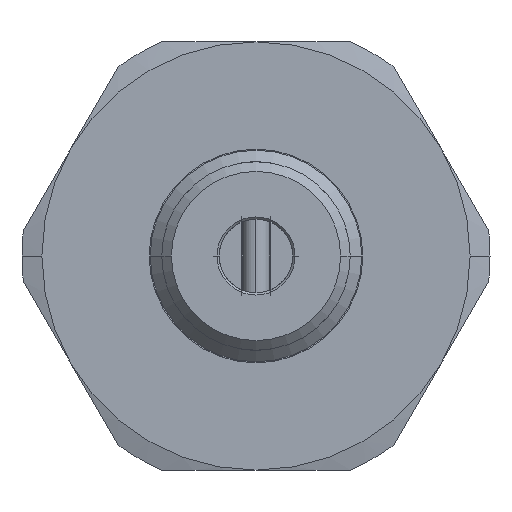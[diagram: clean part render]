
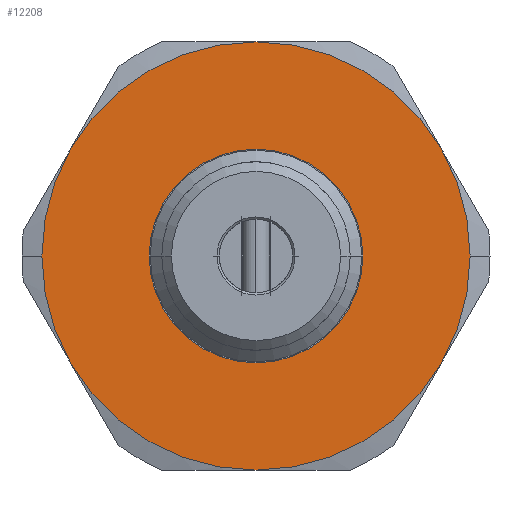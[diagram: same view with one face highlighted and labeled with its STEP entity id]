
A CAD part, left-side view. The second image highlights one B-rep face of the part: STEP entity #12208.
In plain terms, the highlighted planar face has unit normal (-1, 0, 0).
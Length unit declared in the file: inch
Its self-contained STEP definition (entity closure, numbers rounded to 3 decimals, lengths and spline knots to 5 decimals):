
#10758=CARTESIAN_POINT('',(-0.219,0.2495,0.0));
#10759=VERTEX_POINT('',#10758);
#10775=CARTESIAN_POINT('',(-0.219,-0.2495,0.));
#10776=VERTEX_POINT('',#10775);
#10783=CARTESIAN_POINT('',(-0.219,0.0,0.0));
#10784=DIRECTION('',(1.0,0.0,0.0));
#10785=DIRECTION('',(0.0,1.0,0.0));
#10786=AXIS2_PLACEMENT_3D('',#10783,#10784,#10785);
#10787=CIRCLE('',#10786,0.2495);
#10788=EDGE_CURVE('',#10759,#10776,#10787,.T.);
#10882=CARTESIAN_POINT('',(-0.219,0.5,0.));
#10883=VERTEX_POINT('',#10882);
#10890=CARTESIAN_POINT('',(-0.219,0.43301,0.25));
#10891=VERTEX_POINT('',#10890);
#10892=CARTESIAN_POINT('',(-0.219,0.0,0.0));
#10893=DIRECTION('',(1.0,0.0,0.0));
#10894=DIRECTION('',(0.0,1.0,0.0));
#10895=AXIS2_PLACEMENT_3D('',#10892,#10893,#10894);
#10896=CIRCLE('',#10895,0.5);
#10897=EDGE_CURVE('',#10883,#10891,#10896,.T.);
#10915=CARTESIAN_POINT('',(-0.219,-0.5,0.));
#10916=VERTEX_POINT('',#10915);
#10924=CARTESIAN_POINT('',(-0.219,-0.43301,0.25));
#10925=VERTEX_POINT('',#10924);
#10933=CARTESIAN_POINT('',(-0.219,0.0,0.0));
#10934=DIRECTION('',(1.0,0.0,0.0));
#10935=DIRECTION('',(0.0,1.0,0.0));
#10936=AXIS2_PLACEMENT_3D('',#10933,#10934,#10935);
#10937=CIRCLE('',#10936,0.5);
#10938=EDGE_CURVE('',#10925,#10916,#10937,.T.);
#11565=CARTESIAN_POINT('',(-0.219,0.,0.5));
#11566=VERTEX_POINT('',#11565);
#11660=CARTESIAN_POINT('',(-0.219,0.43301,-0.25));
#11661=VERTEX_POINT('',#11660);
#11720=CARTESIAN_POINT('',(-0.219,0.,-0.5));
#11721=VERTEX_POINT('',#11720);
#11780=CARTESIAN_POINT('',(-0.219,-0.43301,-0.25));
#11781=VERTEX_POINT('',#11780);
#11985=CARTESIAN_POINT('',(-0.219,0.0,0.0));
#11986=DIRECTION('',(1.0,0.0,0.0));
#11987=DIRECTION('',(0.0,1.0,0.0));
#11988=AXIS2_PLACEMENT_3D('',#11985,#11986,#11987);
#11989=CIRCLE('',#11988,0.5);
#11990=EDGE_CURVE('',#10916,#11781,#11989,.T.);
#12017=CARTESIAN_POINT('',(-0.219,0.0,0.0));
#12018=DIRECTION('',(1.0,0.0,0.0));
#12019=DIRECTION('',(0.0,1.0,0.0));
#12020=AXIS2_PLACEMENT_3D('',#12017,#12018,#12019);
#12021=CIRCLE('',#12020,0.5);
#12022=EDGE_CURVE('',#11781,#11721,#12021,.T.);
#12041=CARTESIAN_POINT('',(-0.219,0.0,0.0));
#12042=DIRECTION('',(1.0,0.0,0.0));
#12043=DIRECTION('',(0.0,1.0,0.0));
#12044=AXIS2_PLACEMENT_3D('',#12041,#12042,#12043);
#12045=CIRCLE('',#12044,0.5);
#12046=EDGE_CURVE('',#11721,#11661,#12045,.T.);
#12065=CARTESIAN_POINT('',(-0.219,0.0,0.0));
#12066=DIRECTION('',(1.0,0.0,0.0));
#12067=DIRECTION('',(0.0,1.0,0.0));
#12068=AXIS2_PLACEMENT_3D('',#12065,#12066,#12067);
#12069=CIRCLE('',#12068,0.5);
#12070=EDGE_CURVE('',#11661,#10883,#12069,.T.);
#12089=CARTESIAN_POINT('',(-0.219,0.0,0.0));
#12090=DIRECTION('',(1.0,0.0,0.0));
#12091=DIRECTION('',(0.0,1.0,0.0));
#12092=AXIS2_PLACEMENT_3D('',#12089,#12090,#12091);
#12093=CIRCLE('',#12092,0.5);
#12094=EDGE_CURVE('',#10891,#11566,#12093,.T.);
#12165=CARTESIAN_POINT('',(-0.219,0.0,0.0));
#12166=DIRECTION('',(1.0,0.0,0.0));
#12167=DIRECTION('',(0.0,1.0,0.0));
#12168=AXIS2_PLACEMENT_3D('',#12165,#12166,#12167);
#12169=CIRCLE('',#12168,0.2495);
#12170=EDGE_CURVE('',#10776,#10759,#12169,.T.);
#12183=CARTESIAN_POINT('',(-0.219,0.37475,0.0));
#12184=DIRECTION('',(-1.0,0.0,0.0));
#12185=DIRECTION('',(0.0,0.0,1.0));
#12186=AXIS2_PLACEMENT_3D('',#12183,#12184,#12185);
#12187=PLANE('',#12186);
#12188=ORIENTED_EDGE('',*,*,#12070,.F.);
#12189=ORIENTED_EDGE('',*,*,#12046,.F.);
#12190=ORIENTED_EDGE('',*,*,#12022,.F.);
#12191=ORIENTED_EDGE('',*,*,#11990,.F.);
#12192=ORIENTED_EDGE('',*,*,#10938,.F.);
#12193=CARTESIAN_POINT('',(-0.219,0.0,0.0));
#12194=DIRECTION('',(1.0,0.0,0.0));
#12195=DIRECTION('',(0.0,1.0,0.0));
#12196=AXIS2_PLACEMENT_3D('',#12193,#12194,#12195);
#12197=CIRCLE('',#12196,0.5);
#12198=EDGE_CURVE('',#11566,#10925,#12197,.T.);
#12199=ORIENTED_EDGE('',*,*,#12198,.F.);
#12200=ORIENTED_EDGE('',*,*,#12094,.F.);
#12201=ORIENTED_EDGE('',*,*,#10897,.F.);
#12202=EDGE_LOOP('',(#12188,#12189,#12190,#12191,#12192,#12199,#12200,#12201));
#12203=FACE_OUTER_BOUND('',#12202,.T.);
#12204=ORIENTED_EDGE('',*,*,#10788,.T.);
#12205=ORIENTED_EDGE('',*,*,#12170,.T.);
#12206=EDGE_LOOP('',(#12204,#12205));
#12207=FACE_BOUND('',#12206,.T.);
#12208=ADVANCED_FACE('',(#12203,#12207),#12187,.T.);
